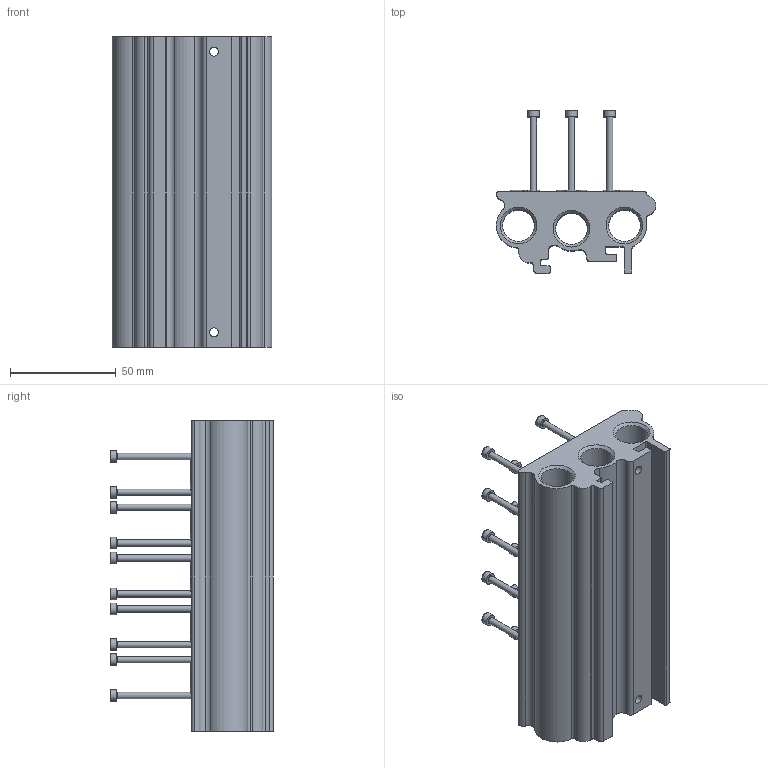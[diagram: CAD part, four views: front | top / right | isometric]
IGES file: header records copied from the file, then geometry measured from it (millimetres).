
Start section: SolidWorks IGES file using analytic representation for surfaces
Global section: file name: K:\Disegni Esecutivi\Elettrovalvole\ASSIEMI_IGS\01VB010005A.IGS; native system: SolidWorks 2012; preprocessor: SolidWorks 2012; author: cad05; date: 131004.181337; units: millimetre
Bounding box: 75.25 x 76.9 x 146.6 mm (x, y, z)
Surface area: 60945.1 mm2 (no closed solid volume)
Topology: 0 solids, 0 shells, 372 faces, 1772 edges, 1505 vertices
Faces by surface type: revolution 199, bspline 173
